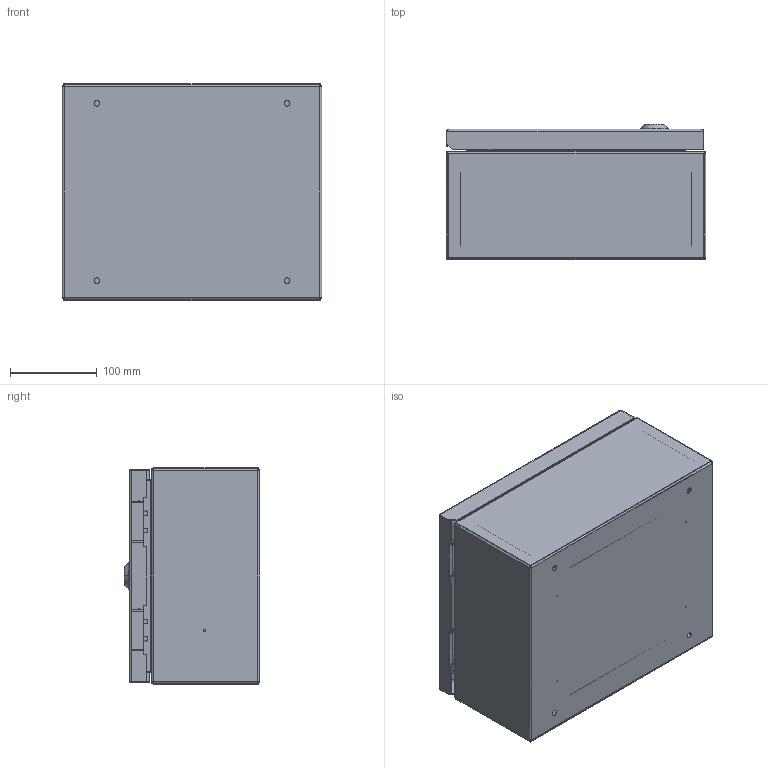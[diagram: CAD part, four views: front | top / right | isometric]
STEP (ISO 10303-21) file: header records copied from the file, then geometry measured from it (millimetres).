
FILE_DESCRIPTION (( 'STEP AP214' ), '1' );
FILE_NAME ('ÙÌÏ-231-250õ300õ150-IP54-ÓÕË2-ÊÝÀÇ.STEP', '2023-01-24T12:08:20', ( '' ), ( '' ), 'SwSTEP 2.0', 'SolidWorks 2018', '' );
FILE_SCHEMA (( 'AUTOMOTIVE_DESIGN' ));
Length unit declared in the file: millimetre
Products named in the file (1): ÙÌÏ-231-250õ300õ150-IP54-ÓÕË2-ÊÝÀÇ
Bounding box: 300 x 156.7 x 250 mm (x, y, z)
Surface area: 719301.8 mm2 (no closed solid volume)
Topology: 0 solids, 27 shells, 227 faces, 761 edges, 538 vertices
Faces by surface type: plane 117, cylinder 72, bspline 24, torus 10, cone 4
Entity records: 12121 total; most frequent: CARTESIAN_POINT 3175, DIRECTION 1321, ORIENTED_EDGE 1124, EDGE_CURVE 761, VERTEX_POINT 538, VECTOR 457, LINE 457, AXIS2_PLACEMENT_3D 432
